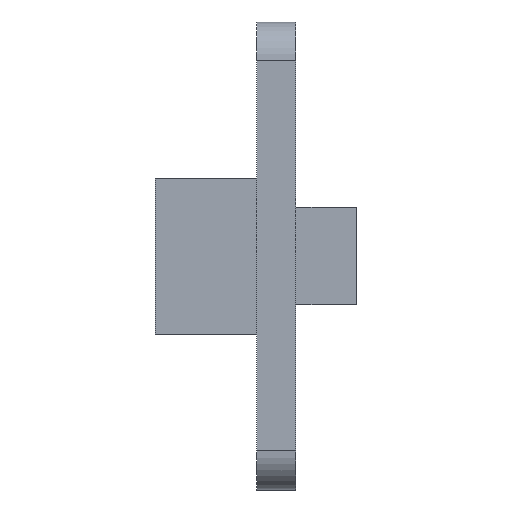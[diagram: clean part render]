
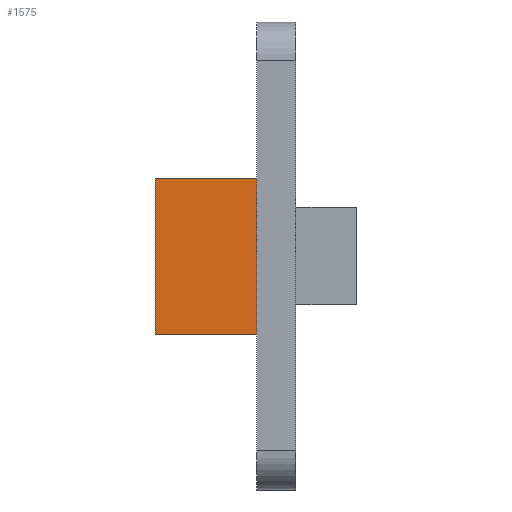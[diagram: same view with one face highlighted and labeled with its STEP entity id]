
A CAD part, left-side view. The second image highlights one B-rep face of the part: STEP entity #1575.
In plain terms, the highlighted planar face has unit normal (-1, 0, 0).
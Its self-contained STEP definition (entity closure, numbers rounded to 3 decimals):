
#100 = PLANE('',#101);
#101 = AXIS2_PLACEMENT_3D('',#102,#103,#104);
#102 = CARTESIAN_POINT('',(-13.,-41.018,77.5));
#103 = DIRECTION('',(-0.,1.,0.));
#104 = DIRECTION('',(0.,0.,1.));
#782 = VERTEX_POINT('',#783);
#783 = CARTESIAN_POINT('',(-4.,-41.018,85.5));
#798 = PLANE('',#799);
#799 = AXIS2_PLACEMENT_3D('',#800,#801,#802);
#800 = CARTESIAN_POINT('',(-4.,-41.028,85.5));
#801 = DIRECTION('',(0.,0.,1.));
#802 = DIRECTION('',(1.,0.,-0.));
#809 = EDGE_CURVE('',#782,#810,#812,.T.);
#810 = VERTEX_POINT('',#811);
#811 = CARTESIAN_POINT('',(-4.,-41.018,81.5));
#812 = SURFACE_CURVE('',#813,(#817,#823),.PCURVE_S1.);
#813 = LINE('',#814,#815);
#814 = CARTESIAN_POINT('',(-4.,-41.018,79.5));
#815 = VECTOR('',#816,1.);
#816 = DIRECTION('',(-0.,0.,-1.));
#817 = PCURVE('',#100,#818);
#818 = DEFINITIONAL_REPRESENTATION('',(#819),#822);
#819 = B_SPLINE_CURVE_WITH_KNOTS('',1,(#820,#821),.UNSPECIFIED.,.F.,.F.,
  (2,2),(-6.,-2.),.PIECEWISE_BEZIER_KNOTS.);
#820 = CARTESIAN_POINT('',(8.,9.));
#821 = CARTESIAN_POINT('',(4.,9.));
#822 = ( GEOMETRIC_REPRESENTATION_CONTEXT(2) 
PARAMETRIC_REPRESENTATION_CONTEXT() REPRESENTATION_CONTEXT('2D SPACE',''
  ) );
#823 = PCURVE('',#824,#829);
#824 = PLANE('',#825);
#825 = AXIS2_PLACEMENT_3D('',#826,#827,#828);
#826 = CARTESIAN_POINT('',(-4.,-41.028,81.5));
#827 = DIRECTION('',(1.,0.,-0.));
#828 = DIRECTION('',(0.,0.,1.));
#829 = DEFINITIONAL_REPRESENTATION('',(#830),#833);
#830 = B_SPLINE_CURVE_WITH_KNOTS('',1,(#831,#832),.UNSPECIFIED.,.F.,.F.,
  (2,2),(-6.,-2.),.PIECEWISE_BEZIER_KNOTS.);
#831 = CARTESIAN_POINT('',(4.,-0.01));
#832 = CARTESIAN_POINT('',(0.,-0.01));
#833 = ( GEOMETRIC_REPRESENTATION_CONTEXT(2) 
PARAMETRIC_REPRESENTATION_CONTEXT() REPRESENTATION_CONTEXT('2D SPACE',''
  ) );
#850 = PLANE('',#851);
#851 = AXIS2_PLACEMENT_3D('',#852,#853,#854);
#852 = CARTESIAN_POINT('',(-4.,-41.028,81.5));
#853 = DIRECTION('',(0.,0.,1.));
#854 = DIRECTION('',(1.,0.,-0.));
#1405 = EDGE_CURVE('',#782,#1406,#1408,.T.);
#1406 = VERTEX_POINT('',#1407);
#1407 = CARTESIAN_POINT('',(-4.,-38.418,85.5));
#1408 = SURFACE_CURVE('',#1409,(#1413,#1420),.PCURVE_S1.);
#1409 = LINE('',#1410,#1411);
#1410 = CARTESIAN_POINT('',(-4.,-41.028,85.5));
#1411 = VECTOR('',#1412,1.);
#1412 = DIRECTION('',(-0.,1.,0.));
#1413 = PCURVE('',#798,#1414);
#1414 = DEFINITIONAL_REPRESENTATION('',(#1415),#1419);
#1415 = LINE('',#1416,#1417);
#1416 = CARTESIAN_POINT('',(0.,0.));
#1417 = VECTOR('',#1418,1.);
#1418 = DIRECTION('',(0.,1.));
#1419 = ( GEOMETRIC_REPRESENTATION_CONTEXT(2) 
PARAMETRIC_REPRESENTATION_CONTEXT() REPRESENTATION_CONTEXT('2D SPACE',''
  ) );
#1420 = PCURVE('',#824,#1421);
#1421 = DEFINITIONAL_REPRESENTATION('',(#1422),#1426);
#1422 = LINE('',#1423,#1424);
#1423 = CARTESIAN_POINT('',(4.,0.));
#1424 = VECTOR('',#1425,1.);
#1425 = DIRECTION('',(0.,-1.));
#1426 = ( GEOMETRIC_REPRESENTATION_CONTEXT(2) 
PARAMETRIC_REPRESENTATION_CONTEXT() REPRESENTATION_CONTEXT('2D SPACE',''
  ) );
#1466 = PLANE('',#1467);
#1467 = AXIS2_PLACEMENT_3D('',#1468,#1469,#1470);
#1468 = CARTESIAN_POINT('',(-4.,-38.418,81.5));
#1469 = DIRECTION('',(-0.,1.,0.));
#1470 = DIRECTION('',(0.,0.,1.));
#1530 = EDGE_CURVE('',#810,#1531,#1533,.T.);
#1531 = VERTEX_POINT('',#1532);
#1532 = CARTESIAN_POINT('',(-4.,-38.418,81.5));
#1533 = SURFACE_CURVE('',#1534,(#1538,#1545),.PCURVE_S1.);
#1534 = LINE('',#1535,#1536);
#1535 = CARTESIAN_POINT('',(-4.,-41.028,81.5));
#1536 = VECTOR('',#1537,1.);
#1537 = DIRECTION('',(-0.,1.,0.));
#1538 = PCURVE('',#850,#1539);
#1539 = DEFINITIONAL_REPRESENTATION('',(#1540),#1544);
#1540 = LINE('',#1541,#1542);
#1541 = CARTESIAN_POINT('',(0.,0.));
#1542 = VECTOR('',#1543,1.);
#1543 = DIRECTION('',(0.,1.));
#1544 = ( GEOMETRIC_REPRESENTATION_CONTEXT(2) 
PARAMETRIC_REPRESENTATION_CONTEXT() REPRESENTATION_CONTEXT('2D SPACE',''
  ) );
#1545 = PCURVE('',#824,#1546);
#1546 = DEFINITIONAL_REPRESENTATION('',(#1547),#1551);
#1547 = LINE('',#1548,#1549);
#1548 = CARTESIAN_POINT('',(0.,0.));
#1549 = VECTOR('',#1550,1.);
#1550 = DIRECTION('',(0.,-1.));
#1551 = ( GEOMETRIC_REPRESENTATION_CONTEXT(2) 
PARAMETRIC_REPRESENTATION_CONTEXT() REPRESENTATION_CONTEXT('2D SPACE',''
  ) );
#1575 = ADVANCED_FACE('',(#1576),#824,.F.);
#1576 = FACE_BOUND('',#1577,.F.);
#1577 = EDGE_LOOP('',(#1578,#1579,#1580,#1581));
#1578 = ORIENTED_EDGE('',*,*,#1405,.F.);
#1579 = ORIENTED_EDGE('',*,*,#809,.T.);
#1580 = ORIENTED_EDGE('',*,*,#1530,.T.);
#1581 = ORIENTED_EDGE('',*,*,#1582,.T.);
#1582 = EDGE_CURVE('',#1531,#1406,#1583,.T.);
#1583 = SURFACE_CURVE('',#1584,(#1588,#1595),.PCURVE_S1.);
#1584 = LINE('',#1585,#1586);
#1585 = CARTESIAN_POINT('',(-4.,-38.418,81.5));
#1586 = VECTOR('',#1587,1.);
#1587 = DIRECTION('',(0.,0.,1.));
#1588 = PCURVE('',#824,#1589);
#1589 = DEFINITIONAL_REPRESENTATION('',(#1590),#1594);
#1590 = LINE('',#1591,#1592);
#1591 = CARTESIAN_POINT('',(0.,-2.61));
#1592 = VECTOR('',#1593,1.);
#1593 = DIRECTION('',(1.,0.));
#1594 = ( GEOMETRIC_REPRESENTATION_CONTEXT(2) 
PARAMETRIC_REPRESENTATION_CONTEXT() REPRESENTATION_CONTEXT('2D SPACE',''
  ) );
#1595 = PCURVE('',#1466,#1596);
#1596 = DEFINITIONAL_REPRESENTATION('',(#1597),#1601);
#1597 = LINE('',#1598,#1599);
#1598 = CARTESIAN_POINT('',(0.,0.));
#1599 = VECTOR('',#1600,1.);
#1600 = DIRECTION('',(1.,0.));
#1601 = ( GEOMETRIC_REPRESENTATION_CONTEXT(2) 
PARAMETRIC_REPRESENTATION_CONTEXT() REPRESENTATION_CONTEXT('2D SPACE',''
  ) );
